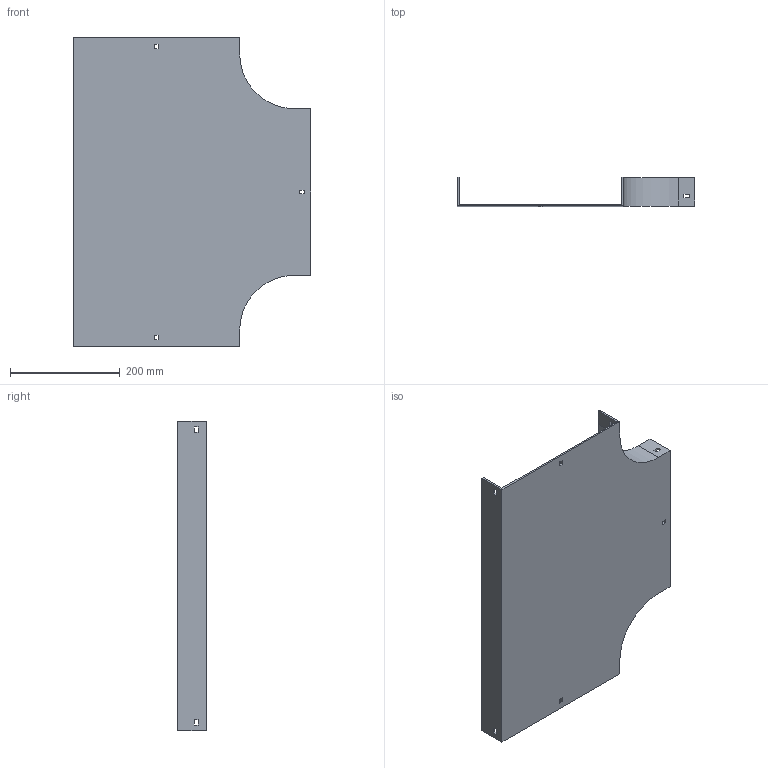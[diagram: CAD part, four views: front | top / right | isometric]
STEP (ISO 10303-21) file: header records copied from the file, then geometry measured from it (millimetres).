
FILE_DESCRIPTION (( 'STEP AP214' ), '1' );
FILE_NAME ('15F1B300.step', '2025-02-21T13:04:18', ( '' ), ( '' ), 'SwSTEP 2.0', 'SolidWorks 2023', '' );
FILE_SCHEMA (( 'AUTOMOTIVE_DESIGN' ));
Length unit declared in the file: millimetre
Products named in the file (1): 15F1B300
Bounding box: 434 x 52 x 564 mm (x, y, z)
Volume: 921724.7 mm3; surface area: 535443.4 mm2
Topology: 1 solids, 1 shells, 58 faces, 168 edges, 112 vertices
Faces by surface type: plane 54, cylinder 4
Entity records: 1939 total; most frequent: CARTESIAN_POINT 339, ORIENTED_EDGE 336, DIRECTION 294, EDGE_CURVE 168, LINE 160, VECTOR 160, VERTEX_POINT 112, EDGE_LOOP 76
